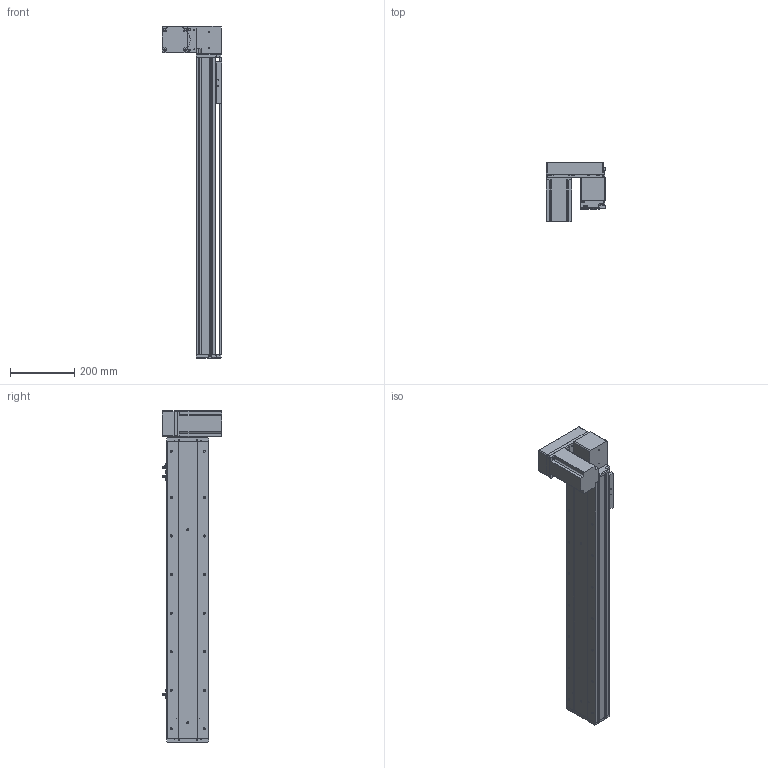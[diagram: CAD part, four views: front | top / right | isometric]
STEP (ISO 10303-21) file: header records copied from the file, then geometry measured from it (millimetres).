
FILE_DESCRIPTION (( 'STEP AP214' ), '1' );
FILE_NAME ('KSD130B-S700-MRD-CM.STEP', '2019-09-21T09:49:25', ( '微软用户' ), ( '微软中国' ), 'SwSTEP 2.0', 'SolidWorks 2014', '' );
FILE_SCHEMA (( 'AUTOMOTIVE_DESIGN' ));
Length unit declared in the file: millimetre
Products named in the file (12): 130宽马达安装板同步带右-改镜向_默认<按加工>; 130宽马达安装板同步带半封闭; 130宽同步带安装座半封闭; 130宽端盖同步带半封闭; 130宽底板半封闭同步带-700行程; KSD130B-S700-MRD-CM; 130宽模组保护罩上下左右折-同步带; 台达ECMA－C20807AS伺服电机; 130宽模组马达安装板连板上下折丝杆同步带; 覜茼え100遵圉猾敕; U倰嫖萇EEㄜSX672; 130宽盖板半封闭同步带-700行程
Assembly tree (13 placements, depth 2):
  KSD130B-S700-MRD-CM
    130宽底板半封闭同步带-700行程
    130宽端盖同步带半封闭
    130宽同步带安装座半封闭
    130宽马达安装板同步带半封闭
    130宽马达安装板同步带右-改镜向_默认<按加工>
    130宽盖板半封闭同步带-700行程
    U倰嫖萇EEㄜSX672  x3
    覜茼え100遵圉猾敕
    130宽模组马达安装板连板上下折丝杆同步带
    台达ECMA－C20807AS伺服电机
    130宽模组保护罩上下左右折-同步带
Bounding box: 186 x 184.8 x 1033 mm (x, y, z)
Volume: 4157041.6 mm3; surface area: 1108063.6 mm2
Topology: 14 solids, 14 shells, 1457 faces, 4125 edges, 2641 vertices
Faces by surface type: cylinder 688, plane 614, cone 155
Entity records: 47127 total; most frequent: CARTESIAN_POINT 8554, DIRECTION 7215, ORIENTED_EDGE 6926, EDGE_CURVE 3463, AXIS2_PLACEMENT_3D 2622, VERTEX_POINT 2265, LINE 1971, VECTOR 1971
